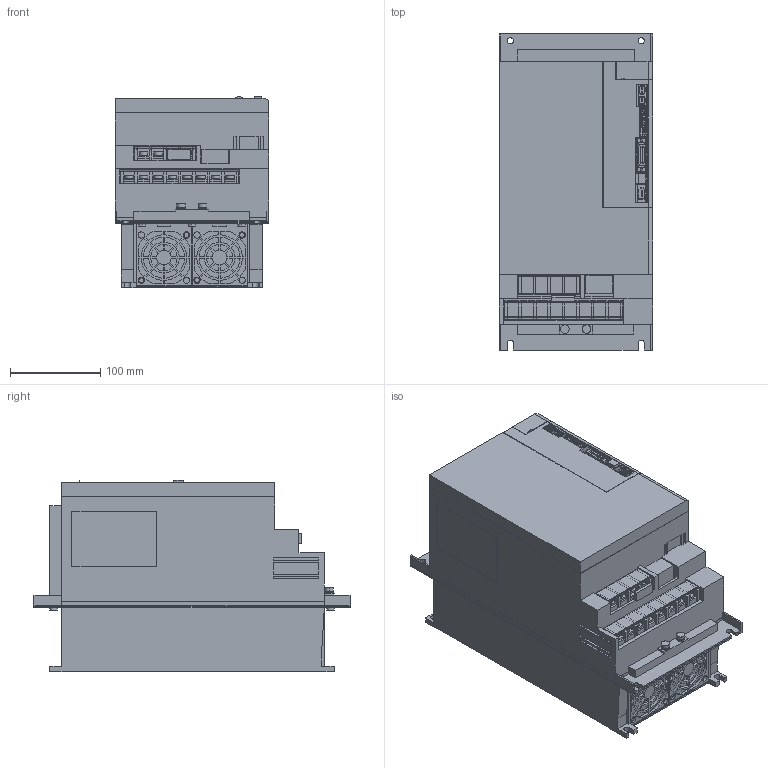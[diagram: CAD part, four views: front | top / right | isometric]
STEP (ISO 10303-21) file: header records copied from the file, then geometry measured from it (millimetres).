
FILE_DESCRIPTION (( 'STEP AP203' ), '1' );
FILE_NAME ('sgd7s_550a20a001.STEP', '2015-09-18T08:32:37', ( '匠エンジニアリング山之内' ), ( 'TAKUMI-Engniaring' ), 'SwSTEP 2.0', 'SolidWorks 2006303', '' );
FILE_SCHEMA (( 'CONFIG_CONTROL_DESIGN' ));
Products named in the file (8): sgd7s_550a20a001_connector; sgd7s_550a20a001; sgd7s_550a20a001_base; sgd7s_550a20a001_cover; sgd7s_550a20a001_cover2; sgd7s_550a20a001_cover3; sgd7s_550a20a001_cover4; sgd7s_550a20a001_terminal
Assembly tree (8 placements, depth 2):
  sgd7s_550a20a001
    sgd7s_550a20a001_cover3
    sgd7s_550a20a001_terminal
    sgd7s_550a20a001_cover4
    sgd7s_550a20a001_cover
    sgd7s_550a20a001_cover2  x2
    sgd7s_550a20a001_base
    sgd7s_550a20a001_connector
Bounding box: 170.5 x 350 x 212.29 mm (x, y, z)
Volume: 8120833.8 mm3; surface area: 910390.8 mm2
Topology: 8 solids, 8 shells, 2302 faces, 6137 edges, 4052 vertices
Faces by surface type: plane 1920, cylinder 377, cone 4, sphere 1
Entity records: 71075 total; most frequent: CARTESIAN_POINT 12391, ORIENTED_EDGE 12166, DIRECTION 11435, EDGE_CURVE 6083, VECTOR 5315, LINE 5315, VERTEX_POINT 4016, AXIS2_PLACEMENT_3D 3060
